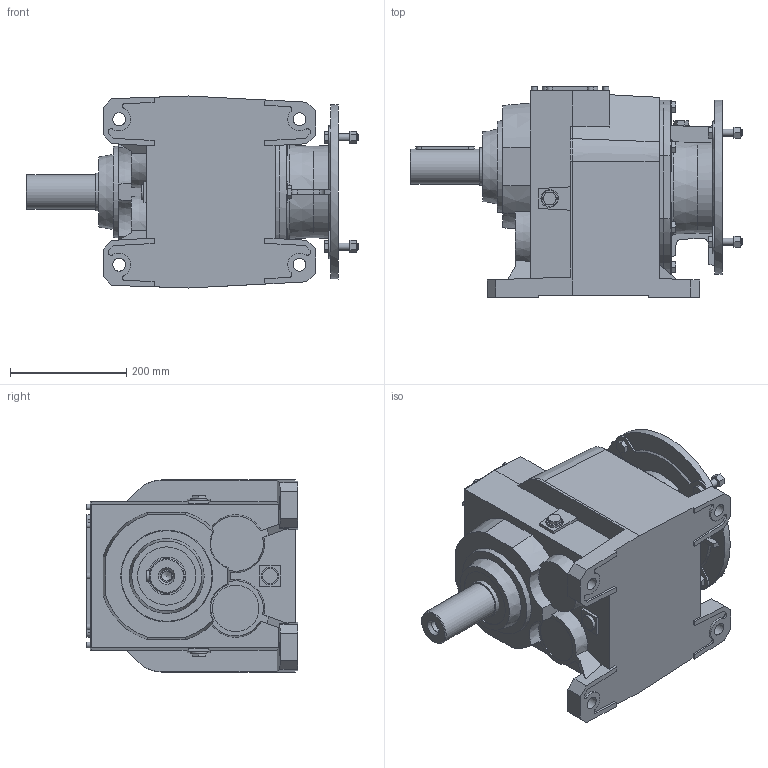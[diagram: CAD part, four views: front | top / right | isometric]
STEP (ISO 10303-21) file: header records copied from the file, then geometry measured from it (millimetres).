
FILE_DESCRIPTION(/* description */ ('STEP AP214'),/* implementation_level */ '2;1');
FILE_NAME(/* name */ 'H102T132 B560x1200NO----(-NO----------)',/* time_stamp */ '2024-11-07T08:56:20+01:00',/* author */ ('License CC BY-ND 4.0'),/* organization */ ('CADENAS'),/* preprocessor_version */ 'ST-DEVELOPER v19.3',/* originating_system */ 'PARTsolutions',/* authorisation */ ' ');
FILE_SCHEMA (('AUTOMOTIVE_DESIGN {1 0 10303 214 3 1 1}'));
Length unit declared in the file: millimetre
Products named in the file (5): H102T132 B560x1200NO----(-NO----------); 102 T; 102-H-300x38(132 B51); 102-300x38; 102T60-1
Assembly tree (4 placements, depth 2):
  H102T132 B560x1200NO----(-NO----------)
    102 T
    102-H-300x38(132 B51)
    102-300x38
    102T60-1
Bounding box: 570.5 x 363 x 330 mm (x, y, z)
Volume: 29421133.1 mm3; surface area: 1073315.8 mm2
Topology: 4 solids, 4 shells, 569 faces, 1436 edges, 949 vertices
Faces by surface type: plane 408, cylinder 100, cone 60, torus 1
Full cylindrical faces by diameter (mm): 9.412 x3, 10 x10, 12 x8, 17.294 x1, 21 x1, 22 x4, 26 x2, 28 x3, 30 x5, 46 x1, 55 x1, 60 x1, 65 x1, 80 x1, 100 x1, 230 x1, 250 x2, 300 x1
Entity records: 20632 total; most frequent: CARTESIAN_POINT 3190, ORIENTED_EDGE 2728, DIRECTION 2726, EDGE_CURVE 1364, LINE 950, VECTOR 950, VERTEX_POINT 936, AXIS2_PLACEMENT_3D 888
